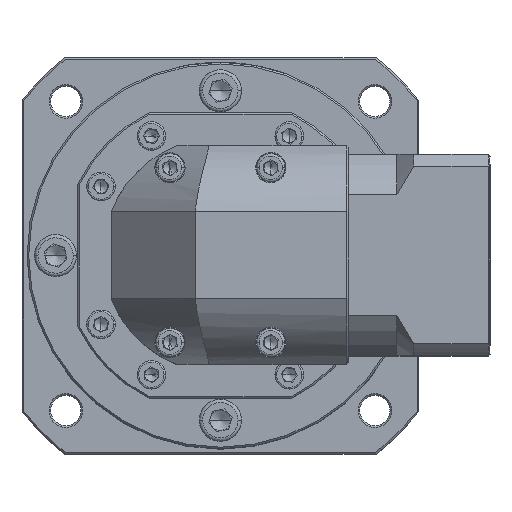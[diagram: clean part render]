
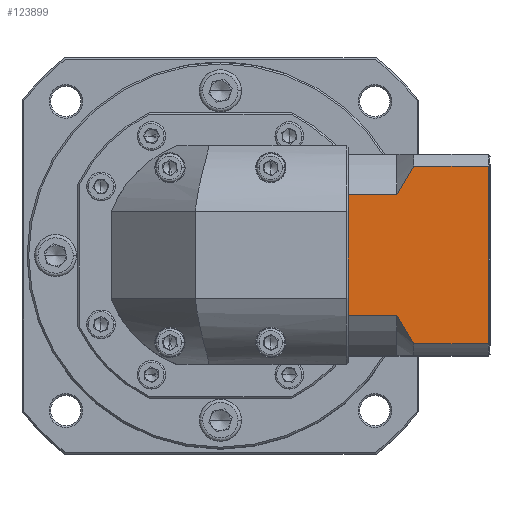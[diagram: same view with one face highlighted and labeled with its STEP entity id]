
A CAD part, top view. The second image highlights one B-rep face of the part: STEP entity #123899.
In plain terms, the highlighted planar face has unit normal (0, 0, 1).
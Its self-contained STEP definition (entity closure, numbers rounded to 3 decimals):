
#1042 = EDGE_CURVE ( 'NONE', #124086, #88603, #17625, .T. ) ;
#2167 = CARTESIAN_POINT ( 'NONE',  ( 117.648, 168.813, 89.751 ) ) ;
#2615 = CARTESIAN_POINT ( 'NONE',  ( 115.099, 164.627, 89.751 ) ) ;
#4467 = CARTESIAN_POINT ( 'NONE',  ( 99.048, 160.752, 89.751 ) ) ;
#5190 = CARTESIAN_POINT ( 'NONE',  ( 99.048, 126.679, 89.751 ) ) ;
#5434 = CARTESIAN_POINT ( 'NONE',  ( 99.048, 173.716, 89.751 ) ) ;
#5603 = CARTESIAN_POINT ( 'NONE',  ( 114.298, 124.231, 89.751 ) ) ;
#5649 = VERTEX_POINT ( 'NONE', #68975 ) ;
#7954 = DIRECTION ( 'NONE',  ( 0., -1., 0. ) ) ;
#11694 = EDGE_CURVE ( 'NONE', #124086, #84441, #98313, .T. ) ;
#12826 = EDGE_CURVE ( 'NONE', #46937, #5649, #21500, .T. ) ;
#15898 = CARTESIAN_POINT ( 'NONE',  ( 113.548, 125.688, 89.751 ) ) ;
#17625 = B_SPLINE_CURVE_WITH_KNOTS ( 'NONE', 3,
 ( #87050, #2167, #33422, #2615, #117756, #107538 ),
 .UNSPECIFIED., .F., .F.,
 ( 4, 2, 4 ),
 ( 0.052, 0.057, 0.062 ),
 .UNSPECIFIED. ) ;
#19428 = VECTOR ( 'NONE', #39244, 1000. ) ;
#21500 = LINE ( 'NONE', #34549, #38216 ) ;
#26109 = LINE ( 'NONE', #91465, #19428 ) ;
#26159 = CARTESIAN_POINT ( 'NONE',  ( 118.548, 117.258, 89.751 ) ) ;
#33347 = CARTESIAN_POINT ( 'NONE',  ( 118.548, 170.173, 89.751 ) ) ;
#33422 = CARTESIAN_POINT ( 'NONE',  ( 116.775, 167.434, 89.751 ) ) ;
#34549 = CARTESIAN_POINT ( 'NONE',  ( 113.548, 125.688, 89.751 ) ) ;
#36102 = VECTOR ( 'NONE', #86223, 1000. ) ;
#37782 = CARTESIAN_POINT ( 'NONE',  ( 116.772, 120.001, 89.751 ) ) ;
#38216 = VECTOR ( 'NONE', #97044, 1000. ) ;
#39244 = DIRECTION ( 'NONE',  ( -1., 0., 0. ) ) ;
#40446 = CARTESIAN_POINT ( 'NONE',  ( 141.248, 173.716, 89.751 ) ) ;
#41427 = CARTESIAN_POINT ( 'NONE',  ( 113.548, 161.743, 89.751 ) ) ;
#41865 = DIRECTION ( 'NONE',  ( 1., 0., 0. ) ) ;
#43255 = VECTOR ( 'NONE', #41865, 1000. ) ;
#43471 = EDGE_CURVE ( 'NONE', #45493, #49416, #66085, .T. ) ;
#45493 = VERTEX_POINT ( 'NONE', #111989 ) ;
#46546 = CARTESIAN_POINT ( 'NONE',  ( 140.748, 170.173, 89.751 ) ) ;
#46937 = VERTEX_POINT ( 'NONE', #89755 ) ;
#47076 = CARTESIAN_POINT ( 'NONE',  ( 117.646, 118.621, 89.751 ) ) ;
#48298 = EDGE_CURVE ( 'NONE', #49416, #110617, #68540, .T. ) ;
#48426 = EDGE_CURVE ( 'NONE', #110617, #5649, #75026, .T. ) ;
#49416 = VERTEX_POINT ( 'NONE', #4467 ) ;
#50264 = VECTOR ( 'NONE', #7954, 1000. ) ;
#50399 = ORIENTED_EDGE ( 'NONE', *, *, #111659, .T. ) ;
#51057 = DIRECTION ( 'NONE',  ( 1., 0., 0. ) ) ;
#52846 = CARTESIAN_POINT ( 'NONE',  ( 113.548, 161.743, 89.751 ) ) ;
#54073 = DIRECTION ( 'NONE',  ( 1., 0., 0. ) ) ;
#55264 = VECTOR ( 'NONE', #98940, 1000. ) ;
#57993 = DIRECTION ( 'NONE',  ( 0., -1., 0. ) ) ;
#58030 = ORIENTED_EDGE ( 'NONE', *, *, #12826, .F. ) ;
#64984 = CARTESIAN_POINT ( 'NONE',  ( 140.748, 173.716, 89.751 ) ) ;
#66085 = LINE ( 'NONE', #5434, #120786 ) ;
#68540 = LINE ( 'NONE', #87316, #55264 ) ;
#68975 = CARTESIAN_POINT ( 'NONE',  ( 99.048, 125.688, 89.751 ) ) ;
#71861 = EDGE_CURVE ( 'NONE', #132855, #126343, #26109, .T. ) ;
#72498 = LINE ( 'NONE', #64984, #36102 ) ;
#75026 = LINE ( 'NONE', #134718, #50264 ) ;
#76656 = ORIENTED_EDGE ( 'NONE', *, *, #11694, .F. ) ;
#77416 = EDGE_CURVE ( 'NONE', #46937, #126343, #94250, .T. ) ;
#80496 = ORIENTED_EDGE ( 'NONE', *, *, #43471, .T. ) ;
#84441 = VERTEX_POINT ( 'NONE', #46546 ) ;
#85125 = ORIENTED_EDGE ( 'NONE', *, *, #48426, .T. ) ;
#86223 = DIRECTION ( 'NONE',  ( 0., 1., 0. ) ) ;
#87050 = CARTESIAN_POINT ( 'NONE',  ( 118.548, 170.173, 89.751 ) ) ;
#87316 = CARTESIAN_POINT ( 'NONE',  ( 99.048, 173.716, 89.751 ) ) ;
#87489 = ORIENTED_EDGE ( 'NONE', *, *, #1042, .T. ) ;
#88603 = VERTEX_POINT ( 'NONE', #52846 ) ;
#89755 = CARTESIAN_POINT ( 'NONE',  ( 113.548, 125.688, 89.751 ) ) ;
#91465 = CARTESIAN_POINT ( 'NONE',  ( 113.548, 117.258, 89.751 ) ) ;
#94250 = B_SPLINE_CURVE_WITH_KNOTS ( 'NONE', 3,
 ( #15898, #5603, #110961, #37782, #47076, #26159 ),
 .UNSPECIFIED., .F., .F.,
 ( 4, 2, 4 ),
 ( 0.1, 0.104, 0.109 ),
 .UNSPECIFIED. ) ;
#97026 = AXIS2_PLACEMENT_3D ( 'NONE', #40446, #123378, #51057 ) ;
#97044 = DIRECTION ( 'NONE',  ( -1., 0., 0. ) ) ;
#98313 = LINE ( 'NONE', #105967, #118180 ) ;
#98940 = DIRECTION ( 'NONE',  ( 0., -1., 0. ) ) ;
#100295 = EDGE_LOOP ( 'NONE', ( #130496, #50399, #76656, #87489, #116308, #80496, #130300, #85125, #58030, #110598 ) ) ;
#101525 = PLANE ( 'NONE',  #97026 ) ;
#101833 = FACE_OUTER_BOUND ( 'NONE', #100295, .T. ) ;
#102875 = CARTESIAN_POINT ( 'NONE',  ( 140.748, 117.258, 89.751 ) ) ;
#105967 = CARTESIAN_POINT ( 'NONE',  ( 113.548, 170.173, 89.751 ) ) ;
#107538 = CARTESIAN_POINT ( 'NONE',  ( 113.548, 161.743, 89.751 ) ) ;
#110598 = ORIENTED_EDGE ( 'NONE', *, *, #77416, .T. ) ;
#110617 = VERTEX_POINT ( 'NONE', #5190 ) ;
#110961 = CARTESIAN_POINT ( 'NONE',  ( 115.098, 122.806, 89.751 ) ) ;
#111659 = EDGE_CURVE ( 'NONE', #132855, #84441, #72498, .T. ) ;
#111989 = CARTESIAN_POINT ( 'NONE',  ( 99.048, 161.743, 89.751 ) ) ;
#116308 = ORIENTED_EDGE ( 'NONE', *, *, #118695, .F. ) ;
#117756 = CARTESIAN_POINT ( 'NONE',  ( 114.296, 163.195, 89.751 ) ) ;
#118180 = VECTOR ( 'NONE', #54073, 1000. ) ;
#118695 = EDGE_CURVE ( 'NONE', #45493, #88603, #136115, .T. ) ;
#120786 = VECTOR ( 'NONE', #57993, 1000. ) ;
#123378 = DIRECTION ( 'NONE',  ( 0., 0., -1. ) ) ;
#123899 = ADVANCED_FACE ( 'NONE', ( #101833 ), #101525, .F. ) ;
#124086 = VERTEX_POINT ( 'NONE', #33347 ) ;
#126343 = VERTEX_POINT ( 'NONE', #129830 ) ;
#129830 = CARTESIAN_POINT ( 'NONE',  ( 118.548, 117.258, 89.751 ) ) ;
#130300 = ORIENTED_EDGE ( 'NONE', *, *, #48298, .T. ) ;
#130496 = ORIENTED_EDGE ( 'NONE', *, *, #71861, .F. ) ;
#132855 = VERTEX_POINT ( 'NONE', #102875 ) ;
#134718 = CARTESIAN_POINT ( 'NONE',  ( 99.048, 173.716, 89.751 ) ) ;
#136115 = LINE ( 'NONE', #41427, #43255 ) ;
